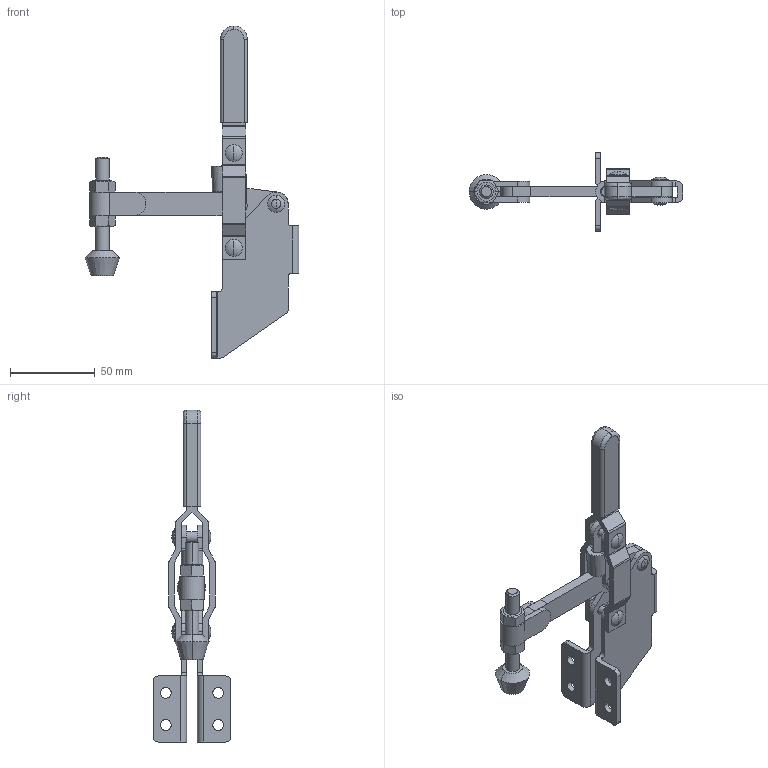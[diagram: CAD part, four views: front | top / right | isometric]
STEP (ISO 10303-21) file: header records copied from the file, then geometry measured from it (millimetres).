
FILE_DESCRIPTION(('CATIA V5 STEP Exchange'),'2;1');
FILE_NAME('D:\Model\toggle\toggle_standard\KJF_018_15A.stp','2005-06-24T04:59:31+00:00',('none'),('none'),'CATIA Version 5 Release 11 (IN-9)','CATIA V5 STEP AP203',' none');
FILE_SCHEMA(('CONFIG_CONTROL_DESIGN'));
Length unit declared in the file: millimetre
Products named in the file (1): Part1
Bounding box: 126.24 x 46 x 196 mm (x, y, z)
Volume: 66563.4 mm3; surface area: 42537.9 mm2
Topology: 12 solids, 12 shells, 282 faces, 748 edges, 484 vertices
Faces by surface type: cylinder 125, plane 119, sphere 24, cone 6, bspline 4, torus 4
Entity records: 8697 total; most frequent: CARTESIAN_POINT 1984, ORIENTED_EDGE 1464, DIRECTION 1144, EDGE_CURVE 732, AXIS2_PLACEMENT_3D 522, VERTEX_POINT 484, VECTOR 398, LINE 398
